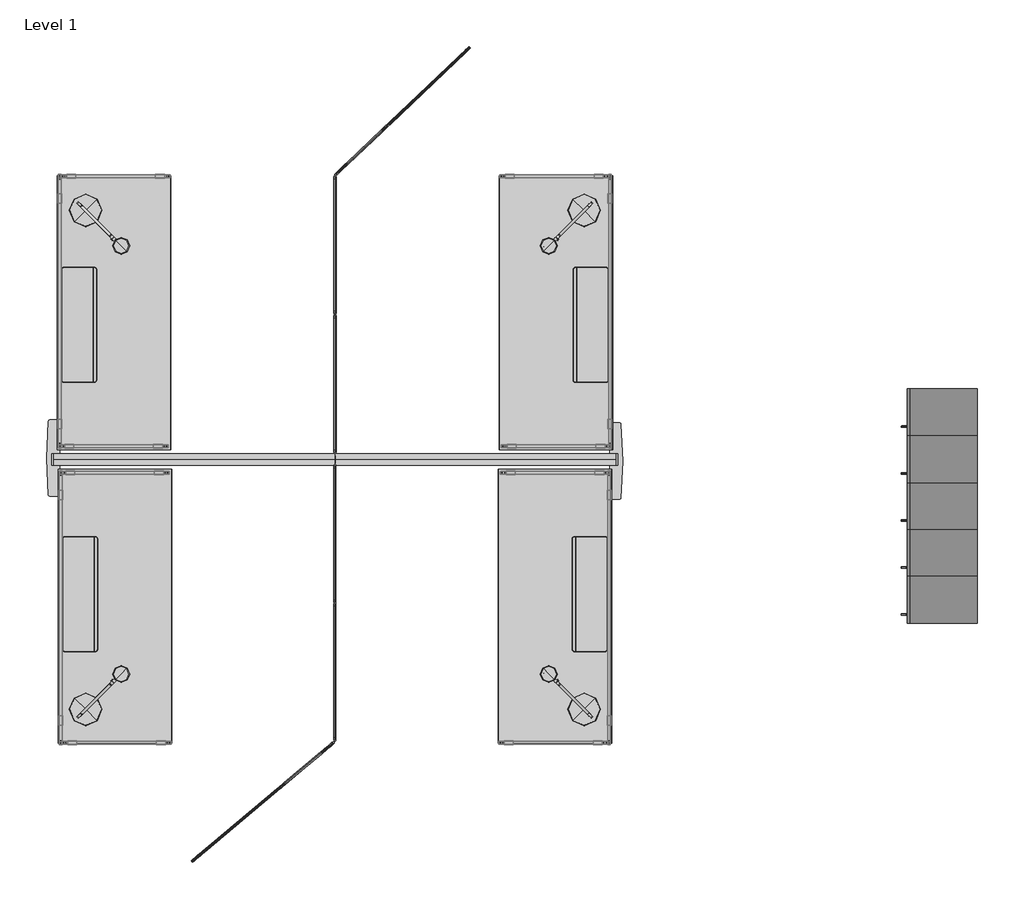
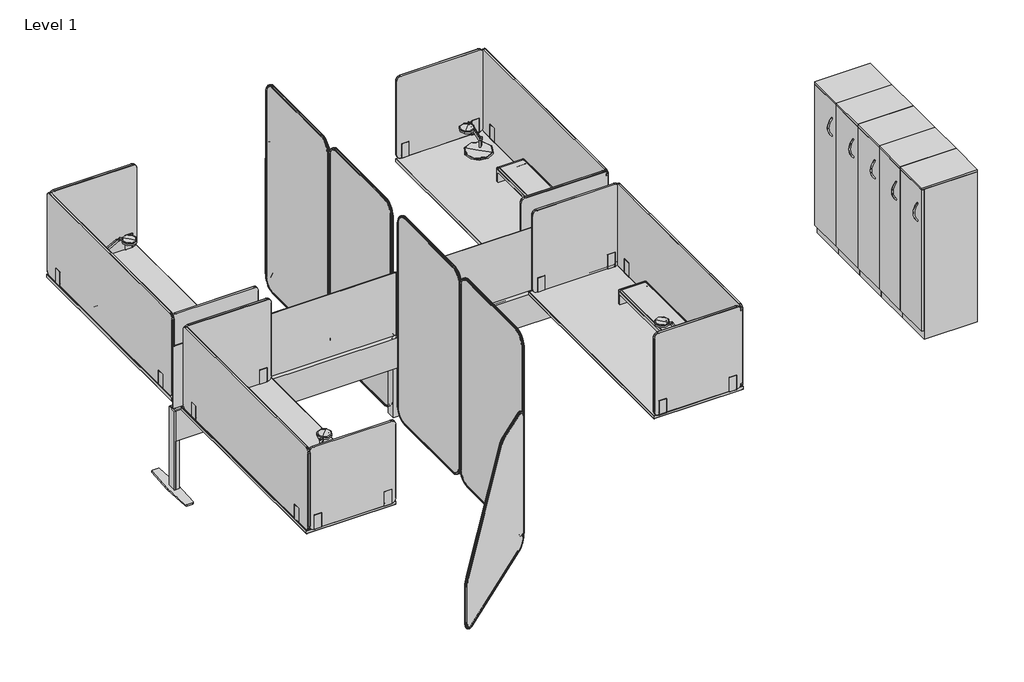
# One storey, incomplete: 33 furniture elements.
"""IFC4 building model written with IfcOpenShell, lengths in millimetres."""

from ifc_helpers import new_model, si_unit, origin, place, context, project, spatial, transform, mapped, element, save
from components import furniture_70w_bd9f5dd2, furniture_70w_9bcf4590, furniture_0ca4453a, furniture_cb9507ce, no_shelf_d7dae3b1, no_shelf_664b266c, steelcase_answer_fence_foot_panel_foot_panel_0da6e12f, steelcase_answer_fence_screen_frameless_glass_b4fc2ed7, steelcase_answer_fence_screen_frameless_glass_d0bd91fb, steelcase_answer_fence_72w_6aa8a157, steelcase_answer_fence_72w_f308af9f, steelcase_flex_screen_freestanding_71h_63d7caac, steelcase_flex_screen_freestanding_71h_8a43d6be, steelcase_flex_screen_freestanding_angled_8fabaf15, steelcase_ts_series_storage_locker_4df35ce1, steelcase_worktool_lighting_dash_mini_led_light_freestanding_f6508700, steelcase_worktool_lighting_dash_mini_led_light_freestanding_8dce2720

model = new_model("IFC4")

# Units and contexts
model_context = context("Model", 3, world=origin())
ifc_project = project(units=[si_unit("LENGTHUNIT", "METRE", prefix="MILLI")], contexts=[model_context])

# Site, building, storey
site = spatial("IfcSite", under=ifc_project)
building = spatial("IfcBuilding", under=site)
storey = spatial("IfcBuildingStorey", under=building, Name="Level 1", Elevation=0.0)

# Furniture
placement = place(None, origin())
furniture_70w_shape = furniture_70w_bd9f5dd2(model_context)
element("IfcFurniture", 1, ObjectType="Steelcase - Ology - Desk Electric - Rectangular - 29D : 70W", at=placement, inside=storey, context=model_context, shape_type="MappedRepresentation", body=[
    mapped(furniture_70w_shape, transform((-40105.0860111, -239098.6235065, 0.0), x_axis=(0.0, 1.0000000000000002, 0.0), y_axis=(-1.0000000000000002, 0.0, 0.0), z_axis=(0.0, 0.0, 1.0))),
])
element("IfcFurniture", 2, ObjectType="Steelcase - Ology - Desk Electric - Rectangular - 29D : 70W", at=placement, inside=storey, context=model_context, shape_type="MappedRepresentation", body=[
    mapped(furniture_70w_shape, transform((-37077.9008579, -236888.935654, 0.0), x_axis=(0.0, -1.0000000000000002, 0.0), y_axis=(1.0000000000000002, 0.0, 0.0), z_axis=(0.0, 0.0, 1.0))),
])
furniture_70w_2_shape = furniture_70w_9bcf4590(model_context)
element("IfcFurniture", 3, ObjectType="Steelcase - Ology - Desk Electric - Rectangular - 29D : 70W", at=placement, inside=storey, context=model_context, shape_type="MappedRepresentation", body=[
    mapped(furniture_70w_2_shape, transform((-40111.4360111, -236888.935654, 0.0), x_axis=(0.0, -1.0000000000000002, 0.0), y_axis=(1.0000000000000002, 0.0, 0.0), z_axis=(0.0, 0.0, 1.0))),
])
element("IfcFurniture", 4, ObjectType="Steelcase - Ology - Desk Electric - Rectangular - 29D : 70W", at=placement, inside=storey, context=model_context, shape_type="MappedRepresentation", body=[
    mapped(furniture_70w_2_shape, transform((-37084.2508579, -239098.6235065, 0.0), x_axis=(0.0, 1.0000000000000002, 0.0), y_axis=(-1.0000000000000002, 0.0, 0.0), z_axis=(0.0, 0.0, 1.0))),
])
furniture_shape = furniture_0ca4453a(model_context)
element("IfcFurniture", 5, ObjectType="AMQ screens - 28inches : 70.03\" x 28.74\"", at=placement, inside=storey, context=model_context, shape_type="MappedRepresentation", body=[
    mapped(furniture_shape, transform((-40028.1360111, -237030.921654, 739.9019665), x_axis=(0.0, 1.0000000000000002, 0.0), y_axis=(-1.0000000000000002, 0.0, 0.0), z_axis=(0.0, 0.0, 1.0))),
])
element("IfcFurniture", 6, ObjectType="AMQ screens - 28inches : 70.03\" x 28.74\"", at=placement, inside=storey, context=model_context, shape_type="MappedRepresentation", body=[
    mapped(furniture_shape, transform((-37167.5508579, -238956.6375065, 739.9019665), x_axis=(0.0, -1.0000000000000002, 0.0), y_axis=(1.0000000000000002, 0.0, 0.0), z_axis=(0.0, 0.0, 1.0))),
])
furniture_2_shape = furniture_cb9507ce(model_context)
element("IfcFurniture", 7, ObjectType="AMQ screens - 28inches : 70.03\" x 28.74\"", at=placement, inside=storey, context=model_context, shape_type="MappedRepresentation", body=[
    mapped(furniture_2_shape, transform((-40021.7860111, -238956.6375065, 739.9019665), x_axis=(0.0, -1.0000000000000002, 0.0), y_axis=(1.0000000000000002, 0.0, 0.0), z_axis=(0.0, 0.0, 1.0))),
])
element("IfcFurniture", 8, ObjectType="AMQ screens - 28inches : 70.03\" x 28.74\"", at=placement, inside=storey, context=model_context, shape_type="MappedRepresentation", body=[
    mapped(furniture_2_shape, transform((-37161.2008579, -237030.921654, 739.9019665), x_axis=(0.0, 1.0000000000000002, 0.0), y_axis=(-1.0000000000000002, 0.0, 0.0), z_axis=(0.0, 0.0, 1.0))),
])
no_shelf_shape = no_shelf_d7dae3b1(model_context)
element("IfcFurniture", 9, ObjectType="Steelcase - Worktool - SOTO II - Monitor Bridge : No Shelf", at=placement, inside=storey, context=model_context, shape_type="MappedRepresentation", body=[
    mapped(no_shelf_shape, transform((-40133.5811544, -239238.3344074, 16.002), x_axis=(0.0, 1.0000000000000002, 0.0), y_axis=(-1.0000000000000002, 0.0, 0.0), z_axis=(0.0, 0.0, 1.0))),
])
element("IfcFurniture", 10, ObjectType="Steelcase - Worktool - SOTO II - Monitor Bridge : No Shelf", at=placement, inside=storey, context=model_context, shape_type="MappedRepresentation", body=[
    mapped(no_shelf_shape, transform((-37049.4057145, -236749.2247531, 16.002), x_axis=(0.0, -1.0000000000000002, 0.0), y_axis=(1.0000000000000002, 0.0, 0.0), z_axis=(0.0, 0.0, 1.0))),
])
no_shelf_2_shape = no_shelf_664b266c(model_context)
element("IfcFurniture", 11, ObjectType="Steelcase - Worktool - SOTO II - Monitor Bridge : No Shelf", at=placement, inside=storey, context=model_context, shape_type="MappedRepresentation", body=[
    mapped(no_shelf_2_shape, transform((-40139.9311544, -236749.2247531, 16.002), x_axis=(0.0, -1.0000000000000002, 0.0), y_axis=(1.0000000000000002, 0.0, 0.0), z_axis=(0.0, 0.0, 1.0))),
])
element("IfcFurniture", 12, ObjectType="Steelcase - Worktool - SOTO II - Monitor Bridge : No Shelf", at=placement, inside=storey, context=model_context, shape_type="MappedRepresentation", body=[
    mapped(no_shelf_2_shape, transform((-37055.7557145, -239238.3344074, 16.002), x_axis=(0.0, 1.0000000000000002, 0.0), y_axis=(-1.0000000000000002, 0.0, 0.0), z_axis=(0.0, 0.0, 1.0))),
])
steelcase_answer_fence_foot_panel_foot_panel_shape = steelcase_answer_fence_foot_panel_foot_panel_0da6e12f(model_context)
element("IfcFurniture", 13, ObjectType="Steelcase - Answer Fence - Foot Panel : Foot Panel", at=placement, inside=storey, context=model_context, shape_type="MappedRepresentation", body=[
    mapped(steelcase_answer_fence_foot_panel_foot_panel_shape, transform((-36731.0196345, -237927.3291778, 0.0), x_axis=(1.0000000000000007, 0.0, 0.0), y_axis=(0.0, 1.0000000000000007, 0.0), z_axis=(0.0, 0.0, 1.0))),
])
element("IfcFurniture", 14, ObjectType="Steelcase - Answer Fence - Foot Panel : Foot Panel", at=placement, inside=storey, context=model_context, shape_type="MappedRepresentation", body=[
    mapped(steelcase_answer_fence_foot_panel_foot_panel_shape, transform((-40460.7556345, -238060.585775, 0.0), x_axis=(-1.0000000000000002, 0.0, 0.0), y_axis=(0.0, -1.0000000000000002, 0.0), z_axis=(0.0, 0.0, 1.0))),
])
steelcase_answer_fence_screen_frameless_glass_shape = steelcase_answer_fence_screen_frameless_glass_b4fc2ed7(model_context)
element("IfcFurniture", 15, ObjectType="Steelcase - Answer Fence - Screen - Frameless Glass : 72W x 19.5H", at=placement, inside=storey, context=model_context, shape_type="MappedRepresentation", body=[
    mapped(steelcase_answer_fence_screen_frameless_glass_shape, transform((-40384.5556345, -237990.9603725, 0.0), x_axis=(1.0, 0.0, 0.0), y_axis=(0.0, 1.0, 0.0), z_axis=(0.0, 0.0, 1.0))),
])
steelcase_answer_fence_screen_frameless_glass_2_shape = steelcase_answer_fence_screen_frameless_glass_d0bd91fb(model_context)
element("IfcFurniture", 16, ObjectType="Steelcase - Answer Fence - Screen - Frameless Glass : 72W x 19.5H", at=placement, inside=storey, context=model_context, shape_type="MappedRepresentation", body=[
    mapped(steelcase_answer_fence_screen_frameless_glass_2_shape, transform((-36803.1556345, -237990.9603725, 0.0), x_axis=(-1.0, 0.0, 0.0), y_axis=(0.0, -1.0, 0.0), z_axis=(0.0, 0.0, 1.0))),
])
steelcase_answer_fence_72w_shape = steelcase_answer_fence_72w_6aa8a157(model_context)
element("IfcFurniture", 17, ObjectType="Steelcase - Answer Fence : 72W", at=placement, inside=storey, context=model_context, shape_type="MappedRepresentation", body=[
    mapped(steelcase_answer_fence_72w_shape, transform((-36807.2196345, -238001.3742778, 0.0), x_axis=(-1.0000000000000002, 0.0, 0.0), y_axis=(0.0, -1.0000000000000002, 0.0), z_axis=(0.0, 0.0, 1.0))),
])
steelcase_answer_fence_72w_2_shape = steelcase_answer_fence_72w_f308af9f(model_context)
element("IfcFurniture", 18, ObjectType="Steelcase - Answer Fence : 72W", at=placement, inside=storey, context=model_context, shape_type="MappedRepresentation", body=[
    mapped(steelcase_answer_fence_72w_2_shape, transform((-38633.9876345, -238001.3742778, 0.0), x_axis=(-1.0000000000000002, 0.0, 0.0), y_axis=(0.0, -1.0000000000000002, 0.0), z_axis=(0.0, 0.0, 1.0))),
])
steelcase_flex_screen_freestanding_71h_shape = steelcase_flex_screen_freestanding_71h_63d7caac(model_context)
element("IfcFurniture", 19, ObjectType="Steelcase - Flex - Screen - Freestanding : 71H", at=placement, inside=storey, context=model_context, shape_type="MappedRepresentation", body=[
    mapped(steelcase_flex_screen_freestanding_71h_shape, transform((-38594.6684345, -238928.7028764, 0.0), x_axis=(0.0, 1.0000000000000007, 0.0), y_axis=(-1.0000000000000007, 0.0, 0.0), z_axis=(0.0, 0.0, 1.0))),
])
element("IfcFurniture", 20, ObjectType="Steelcase - Flex - Screen - Freestanding : 71H", at=placement, inside=storey, context=model_context, shape_type="MappedRepresentation", body=[
    mapped(steelcase_flex_screen_freestanding_71h_shape, transform((-38594.0334345, -237052.8620764, 0.0), x_axis=(0.0, 1.0000000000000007, 0.0), y_axis=(-1.0000000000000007, 0.0, 0.0), z_axis=(0.0, 0.0, 1.0))),
])
steelcase_flex_screen_freestanding_71h_2_shape = steelcase_flex_screen_freestanding_71h_8a43d6be(model_context)
element("IfcFurniture", 21, ObjectType="Steelcase - Flex - Screen - Freestanding : 71H", at=placement, inside=storey, context=model_context, shape_type="MappedRepresentation", body=[
    mapped(steelcase_flex_screen_freestanding_71h_2_shape, transform((-38594.6684345, -238919.6413086, 0.0), x_axis=(0.0, -1.0000000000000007, 0.0), y_axis=(1.0000000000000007, 0.0, 0.0), z_axis=(0.0, 0.0, 1.0))),
])
element("IfcFurniture", 22, ObjectType="Steelcase - Flex - Screen - Freestanding : 71H", at=placement, inside=storey, context=model_context, shape_type="MappedRepresentation", body=[
    mapped(steelcase_flex_screen_freestanding_71h_2_shape, transform((-38594.0334345, -237052.8620764, 0.0), x_axis=(0.0, -1.0000000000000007, 0.0), y_axis=(1.0000000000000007, 0.0, 0.0), z_axis=(0.0, 0.0, 1.0))),
])
steelcase_flex_screen_freestanding_angled_shape = steelcase_flex_screen_freestanding_angled_8fabaf15(model_context)
element("IfcFurniture", 23, ObjectType="Steelcase - Flex - Screen - Freestanding : Angled", at=placement, inside=storey, context=model_context, shape_type="MappedRepresentation", body=[
    mapped(steelcase_flex_screen_freestanding_angled_shape, transform((-38599.4961824, -239827.9003962, 0.0), x_axis=(-0.7660444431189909, -0.6427876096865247, 0.0), y_axis=(0.6427876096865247, -0.7660444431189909, 0.0), z_axis=(0.0, 0.0, 1.0))),
])
element("IfcFurniture", 24, ObjectType="Steelcase - Flex - Screen - Freestanding : Angled", at=placement, inside=storey, context=model_context, shape_type="MappedRepresentation", body=[
    mapped(steelcase_flex_screen_freestanding_angled_shape, transform((-38593.1127319, -236148.2553154, 0.0), x_axis=(0.7249626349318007, 0.6887881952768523, 0.0), y_axis=(-0.6887881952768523, 0.7249626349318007, 0.0), z_axis=(0.0, 0.0, 1.0))),
])
steelcase_ts_series_storage_locker_shape = steelcase_ts_series_storage_locker_4df35ce1(model_context)
element("IfcFurniture", 25, ObjectType="Steelcase - TS Series - Storage - Locker : 18D x 12W x 52H", at=placement, inside=storey, context=model_context, shape_type="MappedRepresentation", body=[
    mapped(steelcase_ts_series_storage_locker_shape, transform((-33599.8443431, -236880.9491838, 0.0), x_axis=(0.0, -1.0, 0.0), y_axis=(1.0, 0.0, 0.0), z_axis=(0.0, 0.0, 1.0))),
])
element("IfcFurniture", 26, ObjectType="Steelcase - TS Series - Storage - Locker : 18D x 12W x 52H", at=placement, inside=storey, context=model_context, shape_type="MappedRepresentation", body=[
    mapped(steelcase_ts_series_storage_locker_shape, transform((-33599.8443431, -237185.7491838, 0.0), x_axis=(0.0, -1.0, 0.0), y_axis=(1.0, 0.0, 0.0), z_axis=(0.0, 0.0, 1.0))),
])
element("IfcFurniture", 27, ObjectType="Steelcase - TS Series - Storage - Locker : 18D x 12W x 52H", at=placement, inside=storey, context=model_context, shape_type="MappedRepresentation", body=[
    mapped(steelcase_ts_series_storage_locker_shape, transform((-33599.8443431, -237490.5491838, 0.0), x_axis=(0.0, -1.0, 0.0), y_axis=(1.0, 0.0, 0.0), z_axis=(0.0, 0.0, 1.0))),
])
element("IfcFurniture", 28, ObjectType="Steelcase - TS Series - Storage - Locker : 18D x 12W x 52H", at=placement, inside=storey, context=model_context, shape_type="MappedRepresentation", body=[
    mapped(steelcase_ts_series_storage_locker_shape, transform((-33599.8443431, -237795.3491838, 0.0), x_axis=(0.0, -1.0, 0.0), y_axis=(1.0, 0.0, 0.0), z_axis=(0.0, 0.0, 1.0))),
])
element("IfcFurniture", 29, ObjectType="Steelcase - TS Series - Storage - Locker : 18D x 12W x 52H", at=placement, inside=storey, context=model_context, shape_type="MappedRepresentation", body=[
    mapped(steelcase_ts_series_storage_locker_shape, transform((-33599.8443431, -238100.1491838, 0.0), x_axis=(0.0, -1.0, 0.0), y_axis=(1.0, 0.0, 0.0), z_axis=(0.0, 0.0, 1.0))),
])
steelcase_worktool_lighting_dash_mini_led_light_freestanding_shape = steelcase_worktool_lighting_dash_mini_led_light_freestanding_f6508700(model_context)
element("IfcFurniture", 30, ObjectType="Steelcase - Worktool - Lighting - Dash Mini LED Light : Freestanding", at=placement, inside=storey, context=model_context, shape_type="MappedRepresentation", body=[
    mapped(steelcase_worktool_lighting_dash_mini_led_light_freestanding_shape, transform((-40280.0984648, -239683.8935806, 7.9203092), x_axis=(-0.7071067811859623, 0.7071067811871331, 0.0), y_axis=(-0.7071067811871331, -0.7071067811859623, 0.0), z_axis=(0.0, 0.0, 1.0))),
])
element("IfcFurniture", 31, ObjectType="Steelcase - Worktool - Lighting - Dash Mini LED Light : Freestanding", at=placement, inside=storey, context=model_context, shape_type="MappedRepresentation", body=[
    mapped(steelcase_worktool_lighting_dash_mini_led_light_freestanding_shape, transform((-36909.2384041, -236310.0155799, 7.9203092), x_axis=(0.7071067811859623, -0.7071067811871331, 0.0), y_axis=(0.7071067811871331, 0.7071067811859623, 0.0), z_axis=(0.0, 0.0, 1.0))),
])
steelcase_worktool_lighting_dash_mini_led_light_freestanding_2_shape = steelcase_worktool_lighting_dash_mini_led_light_freestanding_8dce2720(model_context)
element("IfcFurniture", 32, ObjectType="Steelcase - Worktool - Lighting - Dash Mini LED Light : Freestanding", at=placement, inside=storey, context=model_context, shape_type="MappedRepresentation", body=[
    mapped(steelcase_worktool_lighting_dash_mini_led_light_freestanding_2_shape, transform((-36909.2384041, -239683.8935806, 7.9203092), x_axis=(0.7071067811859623, 0.7071067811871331, 0.0), y_axis=(-0.7071067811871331, 0.7071067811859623, 0.0), z_axis=(0.0, 0.0, 1.0))),
])
element("IfcFurniture", 33, ObjectType="Steelcase - Worktool - Lighting - Dash Mini LED Light : Freestanding", at=placement, inside=storey, context=model_context, shape_type="MappedRepresentation", body=[
    mapped(steelcase_worktool_lighting_dash_mini_led_light_freestanding_2_shape, transform((-40280.0984648, -236310.0155799, 7.9203092), x_axis=(-0.7071067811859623, -0.7071067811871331, 0.0), y_axis=(0.7071067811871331, -0.7071067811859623, 0.0), z_axis=(0.0, 0.0, 1.0))),
])

save(model, "model.ifc")
